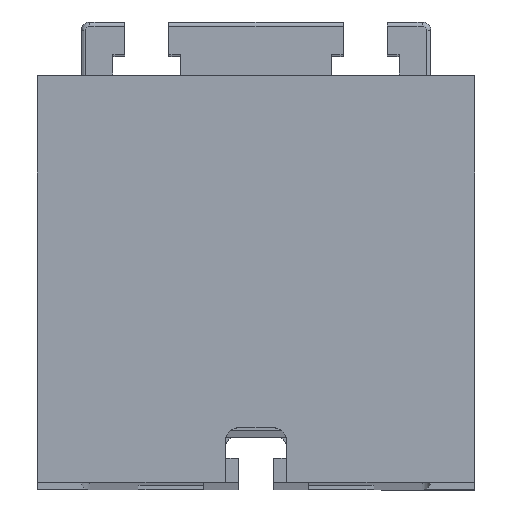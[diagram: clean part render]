
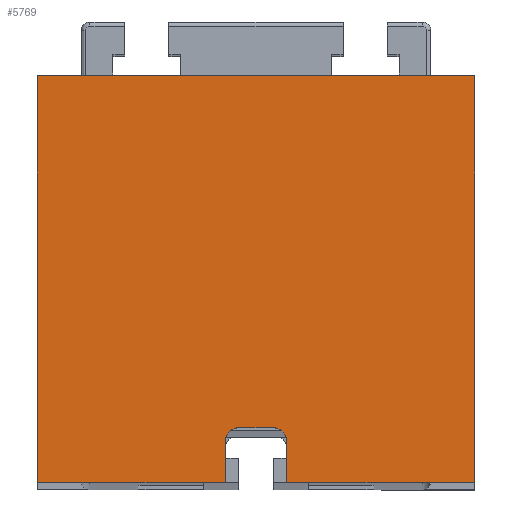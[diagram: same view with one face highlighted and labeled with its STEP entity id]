
A CAD part, top view. The second image highlights one B-rep face of the part: STEP entity #5769.
In plain terms, the highlighted planar face has unit normal (0, 0, 1).
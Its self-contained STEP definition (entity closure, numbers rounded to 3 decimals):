
#113 = CARTESIAN_POINT ( 'NONE',  ( -50., 93., 17. ) ) ;
#177 = LINE ( 'NONE', #2080, #4560 ) ;
#223 = CARTESIAN_POINT ( 'NONE',  ( 50., 93., 17. ) ) ;
#474 = VERTEX_POINT ( 'NONE', #3792 ) ;
#614 = ORIENTED_EDGE ( 'NONE', *, *, #5951, .T. ) ;
#696 = ORIENTED_EDGE ( 'NONE', *, *, #3788, .T. ) ;
#752 = EDGE_CURVE ( 'NONE', #2063, #3998, #3748, .T. ) ;
#806 = DIRECTION ( 'NONE',  ( 0., 0., -1. ) ) ;
#868 = VECTOR ( 'NONE', #1274, 1000. ) ;
#1004 = ORIENTED_EDGE ( 'NONE', *, *, #4325, .T. ) ;
#1046 = CARTESIAN_POINT ( 'NONE',  ( -4., 9.5, 17. ) ) ;
#1093 = EDGE_CURVE ( 'NONE', #1201, #4759, #1217, .T. ) ;
#1105 = LINE ( 'NONE', #4395, #5388 ) ;
#1201 = VERTEX_POINT ( 'NONE', #5231 ) ;
#1217 = LINE ( 'NONE', #5973, #1667 ) ;
#1274 = DIRECTION ( 'NONE',  ( -1., 0., 0. ) ) ;
#1338 = DIRECTION ( 'NONE',  ( 0., 1., 0. ) ) ;
#1438 = VECTOR ( 'NONE', #6008, 1000. ) ;
#1453 = EDGE_CURVE ( 'NONE', #4111, #2450, #3425, .T. ) ;
#1484 = DIRECTION ( 'NONE',  ( 0., 0., -1. ) ) ;
#1667 = VECTOR ( 'NONE', #1338, 1000. ) ;
#1839 = CARTESIAN_POINT ( 'NONE',  ( -50., 0., 17. ) ) ;
#1898 = VERTEX_POINT ( 'NONE', #3069 ) ;
#2019 = DIRECTION ( 'NONE',  ( 0., 0., -1. ) ) ;
#2063 = VERTEX_POINT ( 'NONE', #4859 ) ;
#2080 = CARTESIAN_POINT ( 'NONE',  ( -50., 0., 17. ) ) ;
#2450 = VERTEX_POINT ( 'NONE', #4647 ) ;
#2504 = CARTESIAN_POINT ( 'NONE',  ( -7., 9.5, 17. ) ) ;
#2547 = EDGE_LOOP ( 'NONE', ( #4133, #4994, #4246, #2804, #696, #5756, #1004, #2799, #614, #6001 ) ) ;
#2654 = LINE ( 'NONE', #4036, #1438 ) ;
#2700 = DIRECTION ( 'NONE',  ( 1., 0., 0. ) ) ;
#2764 = DIRECTION ( 'NONE',  ( -1., 0., 0. ) ) ;
#2799 = ORIENTED_EDGE ( 'NONE', *, *, #1093, .T. ) ;
#2804 = ORIENTED_EDGE ( 'NONE', *, *, #752, .T. ) ;
#2845 = VECTOR ( 'NONE', #5145, 1000. ) ;
#3061 = EDGE_CURVE ( 'NONE', #474, #2063, #3219, .T. ) ;
#3069 = CARTESIAN_POINT ( 'NONE',  ( -50., 93., 17. ) ) ;
#3074 = LINE ( 'NONE', #3638, #868 ) ;
#3208 = CARTESIAN_POINT ( 'NONE',  ( 4., 9.5, 17. ) ) ;
#3219 = LINE ( 'NONE', #1839, #2845 ) ;
#3280 = EDGE_CURVE ( 'NONE', #1898, #3948, #177, .T. ) ;
#3425 = CIRCLE ( 'NONE', #5434, 3. ) ;
#3638 = CARTESIAN_POINT ( 'NONE',  ( -50., 93., 17. ) ) ;
#3739 = CARTESIAN_POINT ( 'NONE',  ( -50., 0., 17. ) ) ;
#3748 = LINE ( 'NONE', #5761, #5966 ) ;
#3788 = EDGE_CURVE ( 'NONE', #3998, #1898, #3074, .T. ) ;
#3792 = CARTESIAN_POINT ( 'NONE',  ( 7., 0., 17. ) ) ;
#3823 = DIRECTION ( 'NONE',  ( 1., 0., 0. ) ) ;
#3937 = AXIS2_PLACEMENT_3D ( 'NONE', #1046, #1484, #3823 ) ;
#3948 = VERTEX_POINT ( 'NONE', #4425 ) ;
#3998 = VERTEX_POINT ( 'NONE', #223 ) ;
#4036 = CARTESIAN_POINT ( 'NONE',  ( 4., 12.5, 17. ) ) ;
#4111 = VERTEX_POINT ( 'NONE', #5414 ) ;
#4133 = ORIENTED_EDGE ( 'NONE', *, *, #1453, .T. ) ;
#4147 = CIRCLE ( 'NONE', #3937, 3. ) ;
#4220 = LINE ( 'NONE', #3739, #4986 ) ;
#4246 = ORIENTED_EDGE ( 'NONE', *, *, #3061, .T. ) ;
#4285 = DIRECTION ( 'NONE',  ( 1., 0., 0. ) ) ;
#4325 = EDGE_CURVE ( 'NONE', #3948, #1201, #4220, .T. ) ;
#4395 = CARTESIAN_POINT ( 'NONE',  ( 7., 0., 17. ) ) ;
#4412 = PLANE ( 'NONE',  #4753 ) ;
#4425 = CARTESIAN_POINT ( 'NONE',  ( -50., 0., 17. ) ) ;
#4560 = VECTOR ( 'NONE', #5297, 1000. ) ;
#4647 = CARTESIAN_POINT ( 'NONE',  ( 7., 9.5, 17. ) ) ;
#4753 = AXIS2_PLACEMENT_3D ( 'NONE', #113, #2019, #2764 ) ;
#4759 = VERTEX_POINT ( 'NONE', #2504 ) ;
#4791 = EDGE_CURVE ( 'NONE', #2450, #474, #1105, .T. ) ;
#4859 = CARTESIAN_POINT ( 'NONE',  ( 50., 0., 17. ) ) ;
#4869 = DIRECTION ( 'NONE',  ( 0., -1., 0. ) ) ;
#4986 = VECTOR ( 'NONE', #4285, 1000. ) ;
#4994 = ORIENTED_EDGE ( 'NONE', *, *, #4791, .T. ) ;
#5145 = DIRECTION ( 'NONE',  ( 1., 0., 0. ) ) ;
#5231 = CARTESIAN_POINT ( 'NONE',  ( -7., 0., 17. ) ) ;
#5297 = DIRECTION ( 'NONE',  ( 0., -1., 0. ) ) ;
#5351 = FACE_OUTER_BOUND ( 'NONE', #2547, .T. ) ;
#5388 = VECTOR ( 'NONE', #4869, 1000. ) ;
#5414 = CARTESIAN_POINT ( 'NONE',  ( 4., 12.5, 17. ) ) ;
#5434 = AXIS2_PLACEMENT_3D ( 'NONE', #3208, #806, #2700 ) ;
#5492 = CARTESIAN_POINT ( 'NONE',  ( -4., 12.5, 17. ) ) ;
#5593 = EDGE_CURVE ( 'NONE', #5619, #4111, #2654, .T. ) ;
#5619 = VERTEX_POINT ( 'NONE', #5492 ) ;
#5756 = ORIENTED_EDGE ( 'NONE', *, *, #3280, .T. ) ;
#5761 = CARTESIAN_POINT ( 'NONE',  ( 50., 0., 17. ) ) ;
#5769 = ADVANCED_FACE ( 'NONE', ( #5351 ), #4412, .F. ) ;
#5796 = DIRECTION ( 'NONE',  ( 0., 1., 0. ) ) ;
#5951 = EDGE_CURVE ( 'NONE', #4759, #5619, #4147, .T. ) ;
#5966 = VECTOR ( 'NONE', #5796, 1000. ) ;
#5973 = CARTESIAN_POINT ( 'NONE',  ( -7., 0., 17. ) ) ;
#6001 = ORIENTED_EDGE ( 'NONE', *, *, #5593, .T. ) ;
#6008 = DIRECTION ( 'NONE',  ( 1., 0., 0. ) ) ;
